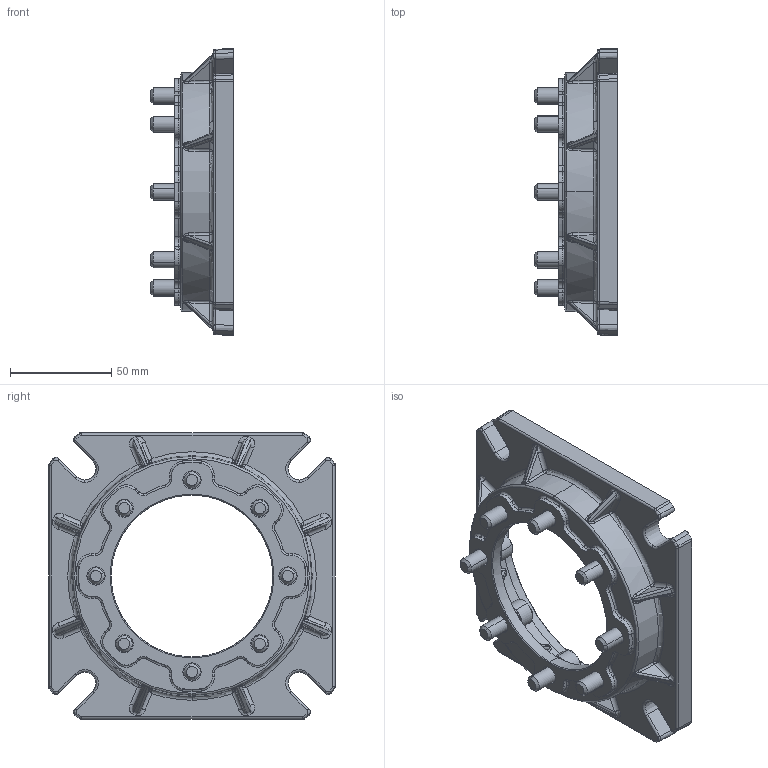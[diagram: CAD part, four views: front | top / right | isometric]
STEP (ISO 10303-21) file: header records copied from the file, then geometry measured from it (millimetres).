
FILE_DESCRIPTION (( 'STEP AP214' ), '1' );
FILE_NAME ('TCM063F.STEP', '2022-11-23T08:27:27', ( '' ), ( '' ), 'SwSTEP 2.0', 'SolidWorks 2020', '' );
FILE_SCHEMA (( 'AUTOMOTIVE_DESIGN' ));
Length unit declared in the file: millimetre
Products named in the file (3): TCM063F; 6SCHHM820ZC_Semplice; W063051
Assembly tree (9 placements, depth 2):
  TCM063F
    W063051
    6SCHHM820ZC_Semplice  x8
Bounding box: 41 x 141.95 x 141.95 mm (x, y, z)
Volume: 129691.9 mm3; surface area: 67465.5 mm2
Topology: 9 solids, 9 shells, 1229 faces, 2923 edges, 1732 vertices
Faces by surface type: bspline 343, cylinder 282, plane 263, torus 152, cone 113, sphere 76
Entity records: 43685 total; most frequent: CARTESIAN_POINT 20379, ORIENTED_EDGE 5226, DIRECTION 4350, EDGE_CURVE 2613, AXIS2_PLACEMENT_3D 1836, VERTEX_POINT 1550, EDGE_LOOP 1129, FACE_OUTER_BOUND 1089
